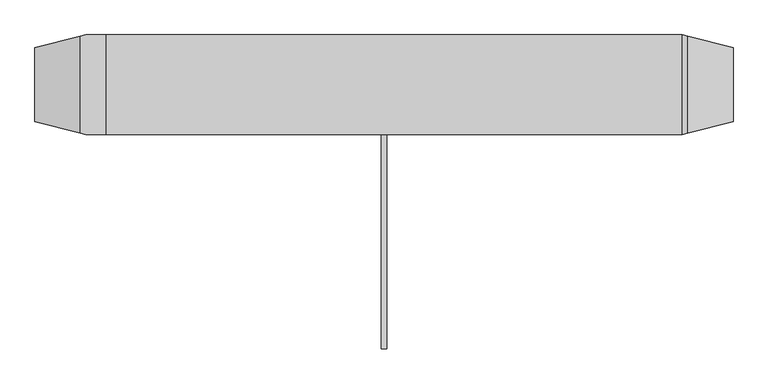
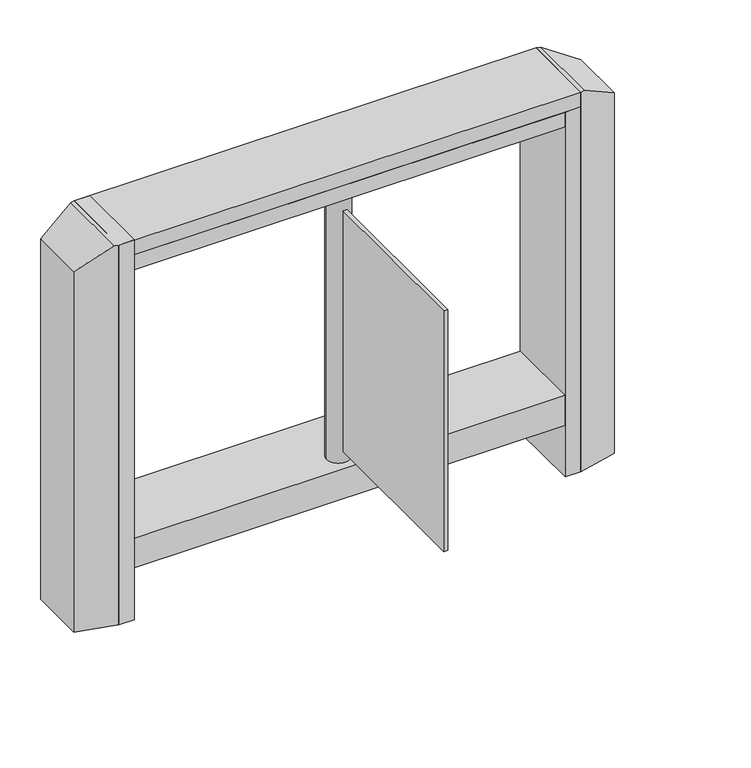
"""IFC4 building model written with IfcOpenShell, lengths in millimetres: proxy geometry, Gotschlich_Турникет_Axioma_DF_Боковой_Модуль_R18 : Axioma LW900."""

from ifc_helpers import new_model, si_unit, point, frame, frame_2d, origin, origin_with_axes, place, context, project, spatial, polyline, circle_curve, trimmed, segment, composite_curve, outline, extrude, faceted_brep, source, transform, mapped, element, save


def mechanical_equipment_809e9af9(model_context):
    return source(origin(), model_context, "Body", "SolidModel", [
        extrude(outline(polyline([(5.0, -48.0201137), (5.0, -523.0201137), (-5.0, -523.0201137), (-5.0, -48.0201137), (5.0, -48.0201137)])), frame((0.0, 0.0, 250.0), z_axis=(0.0, 0.0, 1.0), x_axis=(1.0, 0.0, 0.0)), (0.0, 0.0, 1.0), 650.0),
        extrude(outline(composite_curve([segment(trimmed(circle_curve(frame_2d((0.0, -48.0201137)), 30.0), [point((30.0, -48.0201137))], [point((-30.0, -48.0201137))], False, "CARTESIAN"), True, "CONTINUOUS"), segment(trimmed(circle_curve(frame_2d((0.0, -48.0201137)), 30.0), [point((-30.0, -48.0201137))], [point((30.0, -48.0201137))], False, "CARTESIAN"), True, "CONTINUOUS")], self_intersect=False)), frame((0.0, 0.0, 220.0), z_axis=(0.0, 0.0, 1.0), x_axis=(1.0, 0.0, 0.0)), (0.0, 0.0, 1.0), 725.0),
        faceted_brep([(-550.0, -98.5, 0.0), (-550.0, -98.5, 1025.0), (-590.0, -98.5, 1025.0), (-590.0, -98.5, 0.0), (-550.0, 98.5, 1025.0), (-550.0, 98.5, 0.0), (-590.0, 98.5, 0.0), (-590.0, 98.5, 1025.0), (-690.0, -73.5, 0.0), (-690.0, 73.5, 0.0), (-600.0, 96.0, 1025.0), (-600.0, -96.0, 1025.0), (-690.0, 73.5, 973.0384758), (-690.0, -73.5, 973.0384758)], [[[0, 1, 2, 3]], [[4, 5, 6, 7]], [[5, 0, 3, 8, 9, 6]], [[1, 0, 5, 4]], [[1, 4, 7, 10, 11, 2]], [[11, 10, 12, 13]], [[13, 12, 9, 8]], [[7, 6, 9, 12, 10]], [[3, 2, 11, 13, 8]]]),
        faceted_brep([(690.0, 73.5, 973.0384758), (690.0, -73.5, 973.0384758), (690.0, -73.5, 0.0), (690.0, 73.5, 0.0), (600.0, 96.0, 1025.0), (600.0, -96.0, 1025.0), (590.0, 98.5, 1025.0), (590.0, -98.5, 1025.0), (590.0, 98.5, 0.0), (590.0, -98.5, 0.0)], [[[0, 1, 2, 3]], [[1, 0, 4, 5]], [[6, 7, 5, 4]], [[7, 6, 8, 9]], [[9, 8, 3, 2]], [[2, 1, 5, 7, 9]], [[0, 3, 8, 6, 4]]]),
        extrude(outline(polyline([(-550.0, 98.5), (550.0, 98.5), (550.0, -98.5), (-550.0, -98.5), (-550.0, 98.5)])), frame((0.0, 0.0, 140.0), z_axis=(0.0, 0.0, 1.0), x_axis=(1.0, 0.0, 0.0)), (0.0, 0.0, 1.0), 80.0),
        extrude(outline(polyline([(-590.0, 98.5), (-550.0, 98.5), (-550.0, -98.5), (-590.0, -98.5), (-590.0, 98.5)])), origin_with_axes(), (0.0, 0.0, 1.0), 985.0),
        extrude(outline(polyline([(550.0, 98.5), (590.0, 98.5), (590.0, -98.5), (550.0, -98.5), (550.0, 98.5)])), origin_with_axes(), (0.0, 0.0, 1.0), 985.0),
        extrude(outline(polyline([(-550.0, 98.5), (550.0, 98.5), (550.0, -98.5), (-550.0, -98.5), (-550.0, 98.5)])), frame((0.0, 0.0, 945.0), z_axis=(0.0, 0.0, 1.0), x_axis=(1.0, 0.0, 0.0)), (0.0, 0.0, 1.0), 40.0),
        extrude(outline(polyline([(-590.0, 98.5), (590.0, 98.5), (590.0, -98.5), (-590.0, -98.5), (-590.0, 98.5)])), frame((0.0, 0.0, 985.0), z_axis=(0.0, 0.0, 1.0), x_axis=(1.0, 0.0, 0.0)), (0.0, 0.0, 1.0), 40.0),
    ])


if __name__ == "__main__":
    model = new_model("IFC4")
    model_context = context("Model", 3, world=origin())
    ifc_project = project(units=[si_unit("LENGTHUNIT", "METRE", prefix="MILLI")], contexts=[model_context])
    site = spatial("IfcSite", under=ifc_project)
    building = spatial("IfcBuilding", under=site)
    placement = place(None, origin())
    mechanical_equipment_shape = mechanical_equipment_809e9af9(model_context)
    element("IfcBuildingElementProxy", 1, Name="Gotschlich_Турникет_Axioma_DF_Боковой_Модуль_R18 : Axioma LW900", ObjectType="Gotschlich_Турникет_Axioma_DF_Боковой_Модуль_R18 : Axioma LW900", at=placement, inside=building, context=model_context, shape_type="MappedRepresentation", body=[
        mapped(mechanical_equipment_shape, transform((0.0, 0.0, 0.0), x_axis=(1.0, 0.0, 0.0), y_axis=(0.0, 1.0, 0.0), z_axis=(0.0, 0.0, 1.0))),
    ])
    save(model, "model.ifc")
